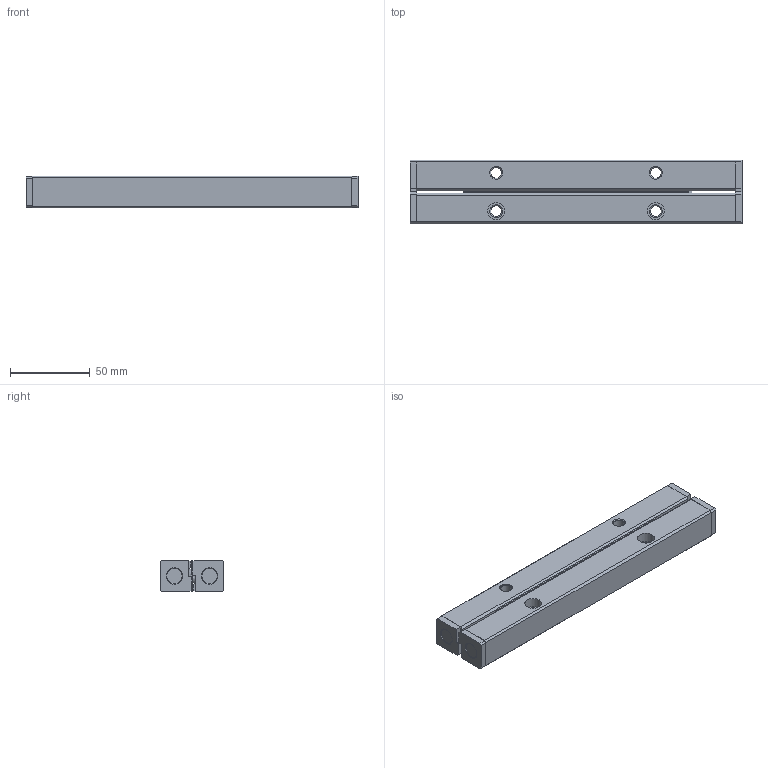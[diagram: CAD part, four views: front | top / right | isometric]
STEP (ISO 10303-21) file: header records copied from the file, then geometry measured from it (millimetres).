
FILE_DESCRIPTION(/* description */ ('STEP AP214'),/* implementation_level */ '2;1');
FILE_NAME(/* name */ 'VB9-200Hx10Z(0)',/* time_stamp */ '2024-09-19T10:04:29+02:00',/* author */ ('License CC BY-ND 4.0'),/* organization */ ('CADENAS'),/* preprocessor_version */ 'ST-DEVELOPER v19.3',/* originating_system */ 'PARTsolutions',/* authorisation */ ' ');
FILE_SCHEMA (('AUTOMOTIVE_DESIGN {1 0 10303 214 3 1 1}'));
Length unit declared in the file: millimetre
Products named in the file (3): VB9-200Hx10Z(0); VR9-200*10Z Ball guide; VR9-200*10Z Ball cage
Assembly tree (3 placements, depth 2):
  VB9-200Hx10Z(0)
    VR9-200*10Z Ball guide  x2
    VR9-200*10Z Ball cage
Bounding box: 208 x 40 x 20 mm (x, y, z)
Volume: 148065 mm3; surface area: 43497.9 mm2
Topology: 3 solids, 3 shells, 128 faces, 286 edges, 192 vertices
Faces by surface type: plane 88, sphere 20, cone 12, cylinder 8
Full cylindrical faces by diameter (mm): 6.8 x4, 10.5 x4
Entity records: 2152 total; most frequent: DIRECTION 357, CARTESIAN_POINT 352, ORIENTED_EDGE 310, EDGE_CURVE 155, LINE 119, VECTOR 119, AXIS2_PLACEMENT_3D 119, EDGE_LOOP 117
